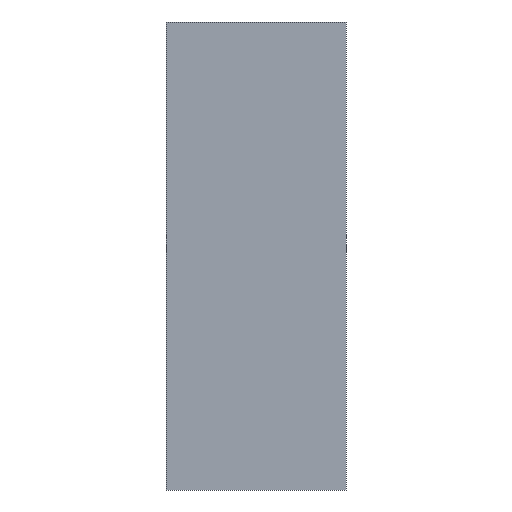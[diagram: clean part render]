
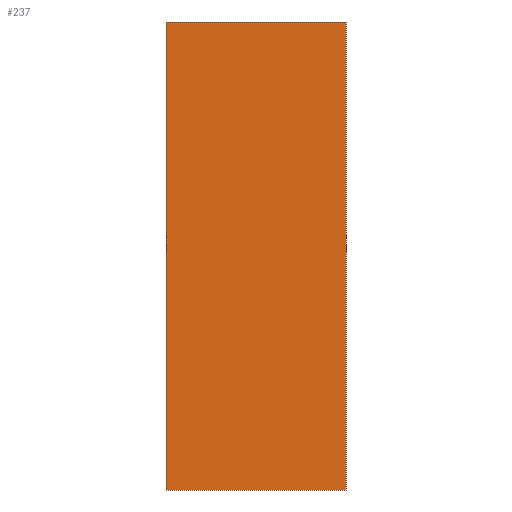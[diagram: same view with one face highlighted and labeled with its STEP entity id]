
A CAD part, front view. The second image highlights one B-rep face of the part: STEP entity #237.
In plain terms, the highlighted planar face has unit normal (0, -1, 0).
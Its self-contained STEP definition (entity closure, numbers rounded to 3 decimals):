
#21 = EDGE_CURVE('',#22,#24,#26,.T.);
#22 = VERTEX_POINT('',#23);
#23 = CARTESIAN_POINT('',(0.,0.,0.));
#24 = VERTEX_POINT('',#25);
#25 = CARTESIAN_POINT('',(0.,0.,260.));
#26 = SURFACE_CURVE('',#27,(#31,#43),.PCURVE_S1.);
#27 = LINE('',#28,#29);
#28 = CARTESIAN_POINT('',(0.,0.,0.));
#29 = VECTOR('',#30,1.);
#30 = DIRECTION('',(0.,0.,1.));
#31 = PCURVE('',#32,#37);
#32 = PLANE('',#33);
#33 = AXIS2_PLACEMENT_3D('',#34,#35,#36);
#34 = CARTESIAN_POINT('',(0.,0.,0.));
#35 = DIRECTION('',(1.,0.,0.));
#36 = DIRECTION('',(0.,0.,1.));
#37 = DEFINITIONAL_REPRESENTATION('',(#38),#42);
#38 = LINE('',#39,#40);
#39 = CARTESIAN_POINT('',(0.,0.));
#40 = VECTOR('',#41,1.);
#41 = DIRECTION('',(1.,0.));
#42 = ( GEOMETRIC_REPRESENTATION_CONTEXT(2) 
PARAMETRIC_REPRESENTATION_CONTEXT() REPRESENTATION_CONTEXT('2D SPACE',''
  ) );
#43 = PCURVE('',#44,#49);
#44 = PLANE('',#45);
#45 = AXIS2_PLACEMENT_3D('',#46,#47,#48);
#46 = CARTESIAN_POINT('',(0.,0.,0.));
#47 = DIRECTION('',(0.,1.,0.));
#48 = DIRECTION('',(0.,0.,1.));
#49 = DEFINITIONAL_REPRESENTATION('',(#50),#54);
#50 = LINE('',#51,#52);
#51 = CARTESIAN_POINT('',(0.,0.));
#52 = VECTOR('',#53,1.);
#53 = DIRECTION('',(1.,0.));
#54 = ( GEOMETRIC_REPRESENTATION_CONTEXT(2) 
PARAMETRIC_REPRESENTATION_CONTEXT() REPRESENTATION_CONTEXT('2D SPACE',''
  ) );
#72 = PLANE('',#73);
#73 = AXIS2_PLACEMENT_3D('',#74,#75,#76);
#74 = CARTESIAN_POINT('',(0.,0.,0.));
#75 = DIRECTION('',(0.,0.,1.));
#76 = DIRECTION('',(1.,0.,0.));
#126 = PLANE('',#127);
#127 = AXIS2_PLACEMENT_3D('',#128,#129,#130);
#128 = CARTESIAN_POINT('',(0.,0.,260.));
#129 = DIRECTION('',(0.,0.,1.));
#130 = DIRECTION('',(1.,0.,0.));
#141 = EDGE_CURVE('',#142,#144,#146,.T.);
#142 = VERTEX_POINT('',#143);
#143 = CARTESIAN_POINT('',(100.,0.,0.));
#144 = VERTEX_POINT('',#145);
#145 = CARTESIAN_POINT('',(100.,0.,260.));
#146 = SURFACE_CURVE('',#147,(#151,#163),.PCURVE_S1.);
#147 = LINE('',#148,#149);
#148 = CARTESIAN_POINT('',(100.,0.,0.));
#149 = VECTOR('',#150,1.);
#150 = DIRECTION('',(0.,0.,1.));
#151 = PCURVE('',#152,#157);
#152 = PLANE('',#153);
#153 = AXIS2_PLACEMENT_3D('',#154,#155,#156);
#154 = CARTESIAN_POINT('',(100.,0.,0.));
#155 = DIRECTION('',(1.,0.,0.));
#156 = DIRECTION('',(0.,0.,1.));
#157 = DEFINITIONAL_REPRESENTATION('',(#158),#162);
#158 = LINE('',#159,#160);
#159 = CARTESIAN_POINT('',(0.,0.));
#160 = VECTOR('',#161,1.);
#161 = DIRECTION('',(1.,0.));
#162 = ( GEOMETRIC_REPRESENTATION_CONTEXT(2) 
PARAMETRIC_REPRESENTATION_CONTEXT() REPRESENTATION_CONTEXT('2D SPACE',''
  ) );
#163 = PCURVE('',#44,#164);
#164 = DEFINITIONAL_REPRESENTATION('',(#165),#169);
#165 = LINE('',#166,#167);
#166 = CARTESIAN_POINT('',(0.,100.));
#167 = VECTOR('',#168,1.);
#168 = DIRECTION('',(1.,0.));
#169 = ( GEOMETRIC_REPRESENTATION_CONTEXT(2) 
PARAMETRIC_REPRESENTATION_CONTEXT() REPRESENTATION_CONTEXT('2D SPACE',''
  ) );
#237 = ADVANCED_FACE('',(#238),#44,.F.);
#238 = FACE_BOUND('',#239,.F.);
#239 = EDGE_LOOP('',(#240,#261,#262,#283));
#240 = ORIENTED_EDGE('',*,*,#241,.F.);
#241 = EDGE_CURVE('',#22,#142,#242,.T.);
#242 = SURFACE_CURVE('',#243,(#247,#254),.PCURVE_S1.);
#243 = LINE('',#244,#245);
#244 = CARTESIAN_POINT('',(0.,0.,0.));
#245 = VECTOR('',#246,1.);
#246 = DIRECTION('',(1.,0.,0.));
#247 = PCURVE('',#44,#248);
#248 = DEFINITIONAL_REPRESENTATION('',(#249),#253);
#249 = LINE('',#250,#251);
#250 = CARTESIAN_POINT('',(0.,0.));
#251 = VECTOR('',#252,1.);
#252 = DIRECTION('',(0.,1.));
#253 = ( GEOMETRIC_REPRESENTATION_CONTEXT(2) 
PARAMETRIC_REPRESENTATION_CONTEXT() REPRESENTATION_CONTEXT('2D SPACE',''
  ) );
#254 = PCURVE('',#72,#255);
#255 = DEFINITIONAL_REPRESENTATION('',(#256),#260);
#256 = LINE('',#257,#258);
#257 = CARTESIAN_POINT('',(0.,0.));
#258 = VECTOR('',#259,1.);
#259 = DIRECTION('',(1.,0.));
#260 = ( GEOMETRIC_REPRESENTATION_CONTEXT(2) 
PARAMETRIC_REPRESENTATION_CONTEXT() REPRESENTATION_CONTEXT('2D SPACE',''
  ) );
#261 = ORIENTED_EDGE('',*,*,#21,.T.);
#262 = ORIENTED_EDGE('',*,*,#263,.T.);
#263 = EDGE_CURVE('',#24,#144,#264,.T.);
#264 = SURFACE_CURVE('',#265,(#269,#276),.PCURVE_S1.);
#265 = LINE('',#266,#267);
#266 = CARTESIAN_POINT('',(0.,0.,260.));
#267 = VECTOR('',#268,1.);
#268 = DIRECTION('',(1.,0.,0.));
#269 = PCURVE('',#44,#270);
#270 = DEFINITIONAL_REPRESENTATION('',(#271),#275);
#271 = LINE('',#272,#273);
#272 = CARTESIAN_POINT('',(260.,0.));
#273 = VECTOR('',#274,1.);
#274 = DIRECTION('',(0.,1.));
#275 = ( GEOMETRIC_REPRESENTATION_CONTEXT(2) 
PARAMETRIC_REPRESENTATION_CONTEXT() REPRESENTATION_CONTEXT('2D SPACE',''
  ) );
#276 = PCURVE('',#126,#277);
#277 = DEFINITIONAL_REPRESENTATION('',(#278),#282);
#278 = LINE('',#279,#280);
#279 = CARTESIAN_POINT('',(0.,0.));
#280 = VECTOR('',#281,1.);
#281 = DIRECTION('',(1.,0.));
#282 = ( GEOMETRIC_REPRESENTATION_CONTEXT(2) 
PARAMETRIC_REPRESENTATION_CONTEXT() REPRESENTATION_CONTEXT('2D SPACE',''
  ) );
#283 = ORIENTED_EDGE('',*,*,#141,.F.);
